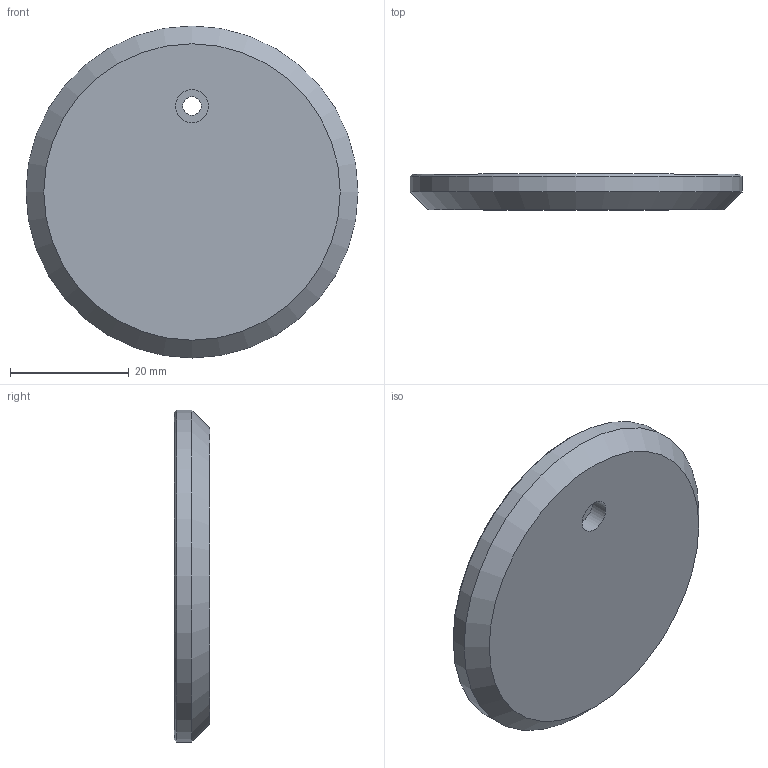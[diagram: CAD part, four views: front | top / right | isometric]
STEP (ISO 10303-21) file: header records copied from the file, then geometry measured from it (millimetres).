
FILE_DESCRIPTION(('HOOPS Exchange Step'),'2;1');
FILE_NAME('/private/var/mobile/Containers/Data/Application/CF5FE49D-83C9-4FF2-81F6-0AAB70978F0F/tmp/export/temp_export','2026-08-30T21:20:16+19:00',('mobile'),('Shapr3D Limited'),'HOOPS Exchange 2026.3','Shapr3D','Authorized');
FILE_SCHEMA( ('AP242_MANAGED_MODEL_BASED_3D_ENGINEERING_MIM_LF {1 0 10303 442 1 1 4}') );
Length unit declared in the file: millimetre
Products named in the file (4): Battery door; Foregrip; Battery door.step; root
Assembly tree (3 placements, depth 4):
  root
    Battery door.step
      Foregrip
        Battery door
Bounding box: 56 x 6 x 56 mm (x, y, z)
Volume: 10550.7 mm3; surface area: 6105.7 mm2
Topology: 1 solids, 1 shells, 17 faces, 38 edges, 25 vertices
Faces by surface type: plane 8, cylinder 7, cone 2
Full cylindrical faces by diameter (mm): 3.1 x1, 5.6 x1, 56 x1
Entity records: 596 total; most frequent: DIRECTION 105, CARTESIAN_POINT 88, ORIENTED_EDGE 76, AXIS2_PLACEMENT_3D 42, EDGE_CURVE 38, VERTEX_POINT 25, EDGE_LOOP 21, FACE_BOUND 21
